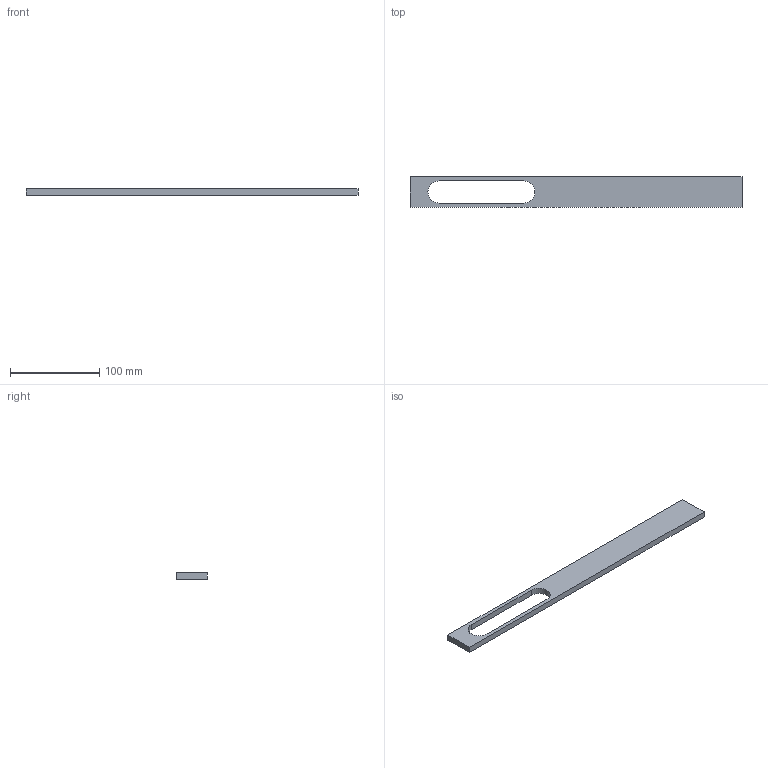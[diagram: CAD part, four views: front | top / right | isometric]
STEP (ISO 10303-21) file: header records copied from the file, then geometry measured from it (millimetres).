
FILE_DESCRIPTION( ( 'STEP AP214' ), '1' );
FILE_NAME( 'C:/Users/swati/Desktop/10-03-2016/14-03-2016/9064670/9064670.stp', ' ', ( ' ' ), ( ' ' ), 'PSStep 15.0.47', 'PARTsolutions', ' ' );
FILE_SCHEMA( ( 'AUTOMOTIVE_DESIGN { 1 0 10303 214 1 1 1 1 }' ) );
Length unit declared in the file: millimetre
Products named in the file (2): 95 ; _
Assembly tree (1 placements, depth 2):
  95 
    _
Bounding box: 372 x 34 x 7 mm (x, y, z)
Volume: 68173.3 mm3; surface area: 27429.6 mm2
Topology: 1 solids, 1 shells, 16 faces, 33 edges, 22 vertices
Faces by surface type: plane 11, cylinder 5
Full cylindrical faces by diameter (mm): 4 x3
Entity records: 582 total; most frequent: DIRECTION 76, CARTESIAN_POINT 70, ORIENTED_EDGE 60, EDGE_CURVE 30, AXIS2_PLACEMENT_3D 28, EDGE_LOOP 24, VERTEX_POINT 22, LINE 20
